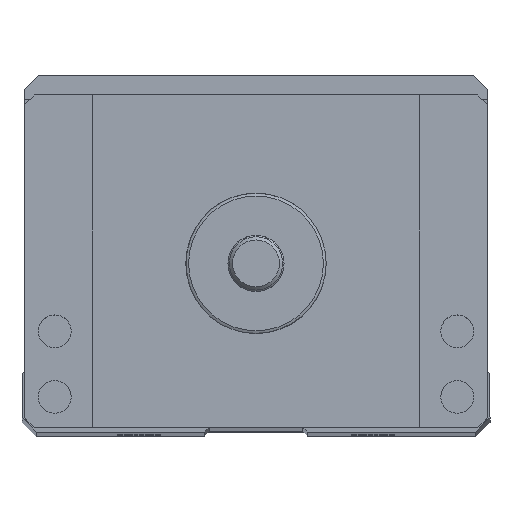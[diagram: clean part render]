
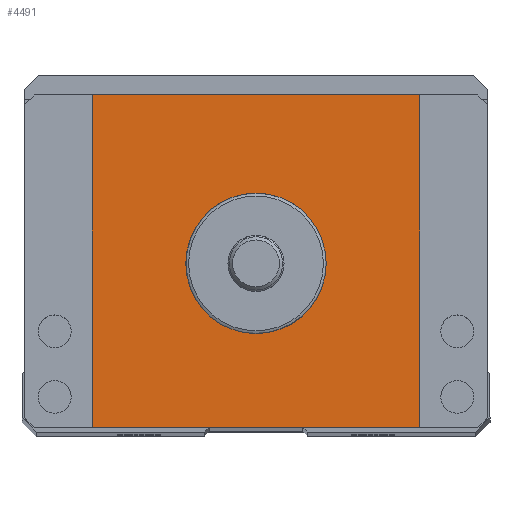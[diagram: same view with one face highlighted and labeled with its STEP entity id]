
A CAD part, top view. The second image highlights one B-rep face of the part: STEP entity #4491.
In plain terms, the highlighted planar face has unit normal (0, 0, 1).
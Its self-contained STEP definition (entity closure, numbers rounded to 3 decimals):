
#4491=ADVANCED_FACE('',(#6953,#6954),#4879,.T.);
#4879=PLANE('',#14632);
#5669=LINE('',#28375,#6532);
#5671=LINE('',#28383,#6534);
#5672=LINE('',#28386,#6535);
#5673=LINE('',#28387,#6536);
#6532=VECTOR('',#17283,1.);
#6534=VECTOR('',#17291,1.);
#6535=VECTOR('',#17292,1.);
#6536=VECTOR('',#17293,1.);
#6953=FACE_BOUND('',#7758,.T.);
#6954=FACE_BOUND('',#7759,.T.);
#7758=EDGE_LOOP('',(#10397));
#7759=EDGE_LOOP('',(#10398,#10399,#10400,#10401));
#10397=ORIENTED_EDGE('',*,*,#13115,.T.);
#10398=ORIENTED_EDGE('',*,*,#13116,.T.);
#10399=ORIENTED_EDGE('',*,*,#13117,.T.);
#10400=ORIENTED_EDGE('',*,*,#13112,.T.);
#10401=ORIENTED_EDGE('',*,*,#13118,.T.);
#11702=VERTEX_POINT('',#28374);
#11703=VERTEX_POINT('',#28376);
#11705=VERTEX_POINT('',#28382);
#11706=VERTEX_POINT('',#28384);
#11707=VERTEX_POINT('',#28385);
#13112=EDGE_CURVE('',#11703,#11702,#5669,.T.);
#13115=EDGE_CURVE('',#11705,#11705,#13691,.T.);
#13116=EDGE_CURVE('',#11706,#11707,#5671,.T.);
#13117=EDGE_CURVE('',#11707,#11703,#5672,.T.);
#13118=EDGE_CURVE('',#11702,#11706,#5673,.T.);
#13691=CIRCLE('',#14631,7.5);
#14631=AXIS2_PLACEMENT_3D('',#28381,#17289,#17290);
#14632=AXIS2_PLACEMENT_3D('',#28388,#17294,#17295);
#17283=DIRECTION('',(-1.,0.,0.));
#17289=DIRECTION('',(0.,0.,-1.));
#17290=DIRECTION('',(1.,0.,0.));
#17291=DIRECTION('',(1.,0.,0.));
#17292=DIRECTION('',(0.,1.,0.));
#17293=DIRECTION('',(0.,-1.,0.));
#17294=DIRECTION('',(0.,0.,1.));
#17295=DIRECTION('',(1.,0.,0.));
#28374=CARTESIAN_POINT('',(82.5,-4.5,101.5));
#28375=CARTESIAN_POINT('',(124.7,-4.5,101.5));
#28376=CARTESIAN_POINT('',(117.5,-4.5,101.5));
#28381=CARTESIAN_POINT('',(100.,-22.5,101.5));
#28382=CARTESIAN_POINT('',(107.5,-22.5,101.5));
#28383=CARTESIAN_POINT('',(75.3,-40.,101.5));
#28384=CARTESIAN_POINT('',(82.5,-40.,101.5));
#28385=CARTESIAN_POINT('',(117.5,-40.,101.5));
#28386=CARTESIAN_POINT('',(117.5,-40.,101.5));
#28387=CARTESIAN_POINT('',(82.5,-40.,101.5));
#28388=CARTESIAN_POINT('',(124.7,-40.,101.5));
